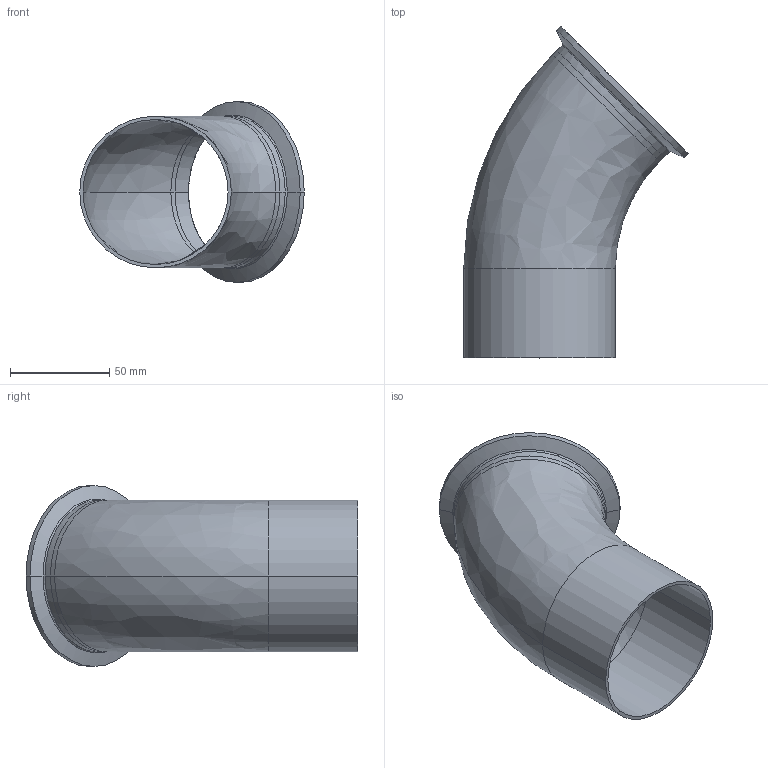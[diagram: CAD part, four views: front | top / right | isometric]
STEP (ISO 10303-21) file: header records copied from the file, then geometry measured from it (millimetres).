
FILE_DESCRIPTION (( 'STEP AP214' ), '1' );
FILE_NAME ('TE2KC6L3.0-...STEP', '2016-05-22T06:32:11', ( 'eran' ), ( '' ), 'SwSTEP 2.0', 'SolidWorks 2016', '' );
FILE_SCHEMA (( 'AUTOMOTIVE_DESIGN' ));
Length unit declared in the file: millimetre
Products named in the file (1): TE2KC6L3.0-..
Bounding box: 112.88 x 166.88 x 90.91 mm (x, y, z)
Volume: 64653.6 mm3; surface area: 74160.1 mm2
Topology: 2 solids, 2 shells, 39 faces, 92 edges, 58 vertices
Faces by surface type: bspline 14, cylinder 14, cone 6, plane 5
Entity records: 1928 total; most frequent: CARTESIAN_POINT 984, DIRECTION 204, ORIENTED_EDGE 184, AXIS2_PLACEMENT_3D 92, EDGE_CURVE 92, CIRCLE 66, VERTEX_POINT 58, EDGE_LOOP 44
